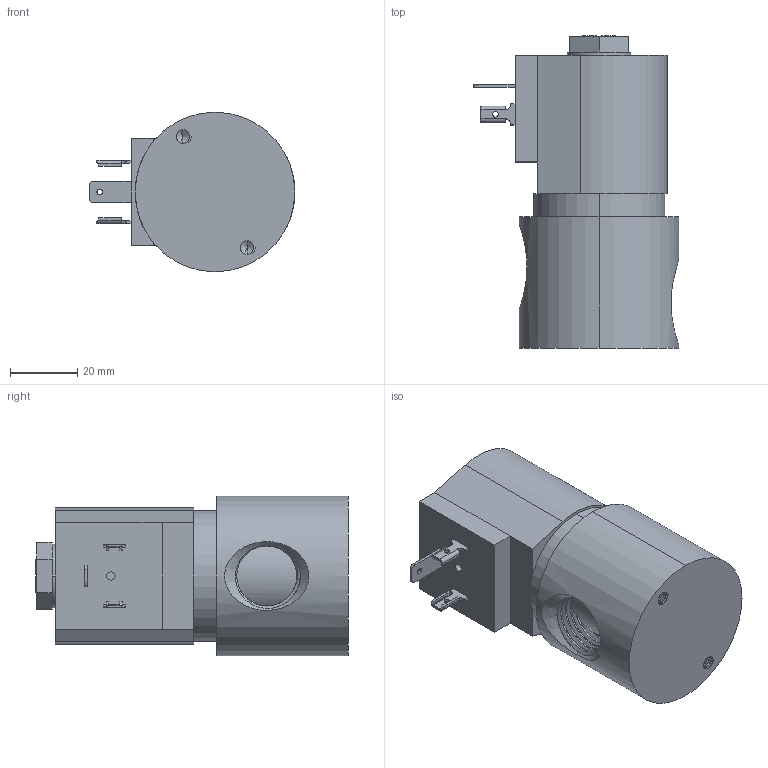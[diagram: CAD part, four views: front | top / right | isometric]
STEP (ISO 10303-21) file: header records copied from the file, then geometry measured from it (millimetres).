
FILE_DESCRIPTION (( 'STEP AP203' ), '1' );
FILE_NAME ('S401Y_D.STEP', '2021-09-09T19:56:16', ( '' ), ( '' ), 'SwSTEP 2.0', 'SolidWorks 2020', '' );
FILE_SCHEMA (( 'CONFIG_CONTROL_DESIGN' ));
Length unit declared in the file: inch
Products named in the file (1): S401Y_D
Bounding box: 61.14 x 92.99 x 47.45 mm (x, y, z)
Volume: 133727.3 mm3; surface area: 20153.7 mm2
Topology: 1 solids, 1 shells, 243 faces, 656 edges, 424 vertices
Faces by surface type: cylinder 120, plane 81, bspline 29, cone 13
Entity records: 20216 total; most frequent: CARTESIAN_POINT 14791, ORIENTED_EDGE 1304, DIRECTION 916, EDGE_CURVE 652, VERTEX_POINT 424, AXIS2_PLACEMENT_3D 317, LINE 282, VECTOR 282
